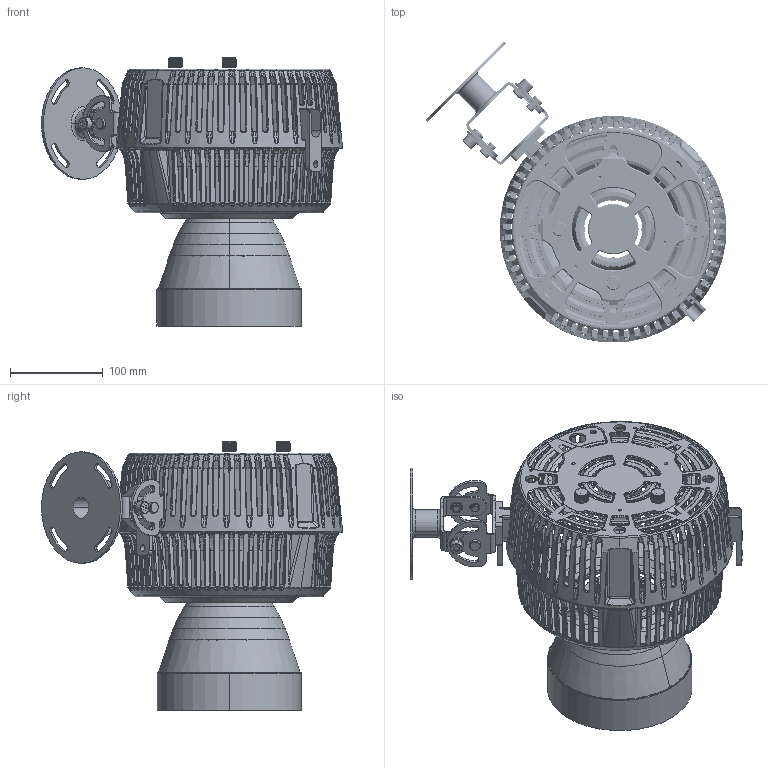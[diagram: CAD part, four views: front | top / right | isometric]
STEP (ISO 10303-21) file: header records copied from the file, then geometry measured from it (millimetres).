
FILE_DESCRIPTION (( 'STEP AP214' ), '1' );
FILE_NAME ('W2KB-PVT-Fixture.STEP', '2024-01-31T02:12:33', ( '' ), ( '' ), 'SwSTEP 2.0', 'SolidWorks 2022', '' );
FILE_SCHEMA (( 'AUTOMOTIVE_DESIGN' ));
Length unit declared in the file: millimetre
Products named in the file (17): 5022644_A1_REFLECTOR-50 FOR W2K___; SCREW, M8 L8 CAP HEAD, HEX SOCKET, SUS, BLACK___; 5022498_X1_Single Arm Pivot___; WASHER ID4.2,OD10,T=1___; 5022497_X1_Single Arm Base___; REFLECTOR-50___; 5021926_A1_KNOB, 18T, OD=14.9, ID=6, L=10MM___; 5022531_X1_BOTTOM HOUSING FOR W2K&A2K; 5022496_X2_Yoke Adapter___; 5022640_A1_Single Arm Axis, L=15mm___; ID8,OD16,T1.5 WASHER___; 5022642_A2_C Circlip, ID=7.4mm___; SCREW, PAN HEAD SUS-304, M4.0 x L5mm___; 5022499_X2_Single Arm Pivot Base___; W2KB-PVT-Fixture; PIVOT Mount___; 5022530-2022-01-10___
Assembly tree (29 placements, depth 3):
  W2KB-PVT-Fixture
    5022531_X1_BOTTOM HOUSING FOR W2K&A2K
    5022496_X2_Yoke Adapter___  x2
    5022530-2022-01-10___
    5021926_A1_KNOB, 18T, OD=14.9, ID=6, L=10MM___  x2
    SCREW, M8 L8 CAP HEAD, HEX SOCKET, SUS, BLACK___
    PIVOT Mount___
      5022497_X1_Single Arm Base___
      5022498_X1_Single Arm Pivot___
      5022640_A1_Single Arm Axis, L=15mm___  x2
      5022642_A2_C Circlip, ID=7.4mm___  x2
      SCREW, M8 L8 CAP HEAD, HEX SOCKET, SUS, BLACK___  x2
      ID8,OD16,T1.5 WASHER___  x2
    5022499_X2_Single Arm Pivot Base___
    REFLECTOR-50___
      5022644_A1_REFLECTOR-50 FOR W2K___
      SCREW, PAN HEAD SUS-304, M4.0 x L5mm___  x4
      WASHER ID4.2,OD10,T=1___  x4
Bounding box: 323.66 x 323.63 x 288.3 mm (x, y, z)
Volume: 498491.7 mm3; surface area: 512070 mm2
Topology: 27 solids, 27 shells, 5798 faces, 15357 edges, 9431 vertices
Faces by surface type: bspline 2309, plane 1340, cylinder 1220, torus 469, cone 460
Entity records: 300489 total; most frequent: CARTESIAN_POINT 166174, ORIENTED_EDGE 27152, DIRECTION 17525, EDGE_CURVE 13576, VERTEX_POINT 8255, AXIS2_PLACEMENT_3D 7512, B_SPLINE_CURVE_WITH_KNOTS 6294, EDGE_LOOP 5373
